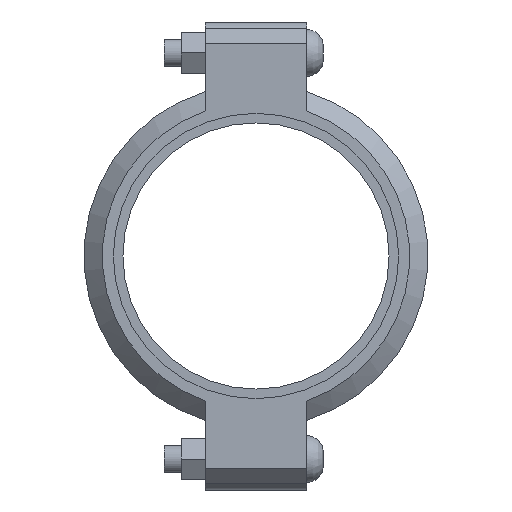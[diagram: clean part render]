
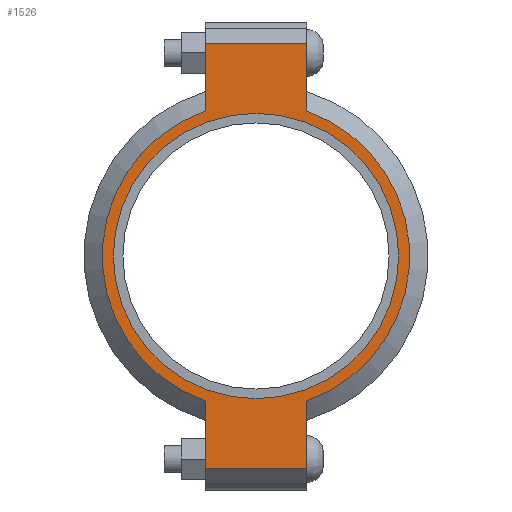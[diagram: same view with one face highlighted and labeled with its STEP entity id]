
A CAD part, left-side view. The second image highlights one B-rep face of the part: STEP entity #1526.
In plain terms, the highlighted planar face has unit normal (-1, 0, 0) as drawn and (0, 0, 1) by its records, which use the part's own axes.
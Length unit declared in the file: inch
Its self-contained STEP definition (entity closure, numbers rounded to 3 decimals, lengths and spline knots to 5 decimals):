
#150=LINE('',#2663,#243);
#158=LINE('',#2699,#251);
#165=LINE('',#2720,#258);
#174=LINE('',#2752,#267);
#175=LINE('',#2756,#268);
#176=LINE('',#2758,#269);
#243=VECTOR('',#2175,0.3937);
#251=VECTOR('',#2191,0.3937);
#258=VECTOR('',#2210,0.3937);
#267=VECTOR('',#2235,0.3937);
#268=VECTOR('',#2240,0.3937);
#269=VECTOR('',#2241,0.3937);
#325=FACE_BOUND('',#503,.T.);
#397=FACE_OUTER_BOUND('',#502,.T.);
#502=EDGE_LOOP('',(#1267,#1268,#1269,#1270,#1271,#1272,#1273,#1274));
#503=EDGE_LOOP('',(#1275));
#575=CIRCLE('',#1745,3.25);
#601=CIRCLE('',#1804,3.5);
#602=CIRCLE('',#1805,3.5);
#667=VERTEX_POINT('',#2479);
#710=VERTEX_POINT('',#2660);
#711=VERTEX_POINT('',#2662);
#722=VERTEX_POINT('',#2694);
#723=VERTEX_POINT('',#2698);
#730=VERTEX_POINT('',#2717);
#731=VERTEX_POINT('',#2719);
#741=VERTEX_POINT('',#2755);
#742=VERTEX_POINT('',#2757);
#823=EDGE_CURVE('',#667,#667,#575,.T.);
#884=EDGE_CURVE('',#711,#710,#150,.T.);
#898=EDGE_CURVE('',#723,#722,#158,.T.);
#908=EDGE_CURVE('',#731,#730,#165,.T.);
#923=EDGE_CURVE('',#723,#710,#174,.T.);
#924=EDGE_CURVE('',#722,#731,#601,.T.);
#925=EDGE_CURVE('',#741,#730,#175,.T.);
#926=EDGE_CURVE('',#741,#742,#176,.T.);
#927=EDGE_CURVE('',#742,#711,#602,.T.);
#1267=ORIENTED_EDGE('',*,*,#923,.F.);
#1268=ORIENTED_EDGE('',*,*,#898,.T.);
#1269=ORIENTED_EDGE('',*,*,#924,.T.);
#1270=ORIENTED_EDGE('',*,*,#908,.T.);
#1271=ORIENTED_EDGE('',*,*,#925,.F.);
#1272=ORIENTED_EDGE('',*,*,#926,.T.);
#1273=ORIENTED_EDGE('',*,*,#927,.T.);
#1274=ORIENTED_EDGE('',*,*,#884,.T.);
#1275=ORIENTED_EDGE('',*,*,#823,.T.);
#1368=PLANE('',#1803);
#1526=ADVANCED_FACE('',(#397,#325),#1368,.T.);
#1745=AXIS2_PLACEMENT_3D('',#2481,#2051,#2052);
#1803=AXIS2_PLACEMENT_3D('',#2753,#2236,#2237);
#1804=AXIS2_PLACEMENT_3D('',#2754,#2238,#2239);
#1805=AXIS2_PLACEMENT_3D('',#2759,#2242,#2243);
#2051=DIRECTION('center_axis',(0.,0.,-1.));
#2052=DIRECTION('ref_axis',(-1.,0.,0.));
#2175=DIRECTION('',(-1.,0.,0.));
#2191=DIRECTION('',(1.,0.,0.));
#2210=DIRECTION('',(1.,0.,0.));
#2235=DIRECTION('',(0.,1.,0.));
#2236=DIRECTION('center_axis',(0.,0.,1.));
#2237=DIRECTION('ref_axis',(1.,0.,0.));
#2238=DIRECTION('center_axis',(0.,0.,1.));
#2239=DIRECTION('ref_axis',(-1.,0.,0.));
#2240=DIRECTION('',(0.,-1.,0.));
#2241=DIRECTION('',(-1.,0.,0.));
#2242=DIRECTION('center_axis',(0.,0.,1.));
#2243=DIRECTION('ref_axis',(-1.,0.,0.));
#2479=CARTESIAN_POINT('',(3.25,0.,1.04));
#2481=CARTESIAN_POINT('Origin',(0.,0.,1.04));
#2660=CARTESIAN_POINT('',(-4.83,1.156,1.04));
#2662=CARTESIAN_POINT('',(-3.30358,1.156,1.04));
#2663=CARTESIAN_POINT('',(-5.33,1.156,1.04));
#2694=CARTESIAN_POINT('',(-3.30358,-1.156,1.04));
#2698=CARTESIAN_POINT('',(-4.83,-1.156,1.04));
#2699=CARTESIAN_POINT('',(5.33,-1.156,1.04));
#2717=CARTESIAN_POINT('',(4.83,-1.156,1.04));
#2719=CARTESIAN_POINT('',(3.30358,-1.156,1.04));
#2720=CARTESIAN_POINT('',(5.33,-1.156,1.04));
#2752=CARTESIAN_POINT('',(-4.83,0.578,1.04));
#2753=CARTESIAN_POINT('Origin',(0.,0.,1.04));
#2754=CARTESIAN_POINT('Origin',(0.,0.,1.04));
#2755=CARTESIAN_POINT('',(4.83,1.156,1.04));
#2756=CARTESIAN_POINT('',(4.83,-0.578,1.04));
#2757=CARTESIAN_POINT('',(3.30358,1.156,1.04));
#2758=CARTESIAN_POINT('',(-5.33,1.156,1.04));
#2759=CARTESIAN_POINT('Origin',(0.,0.,1.04));
